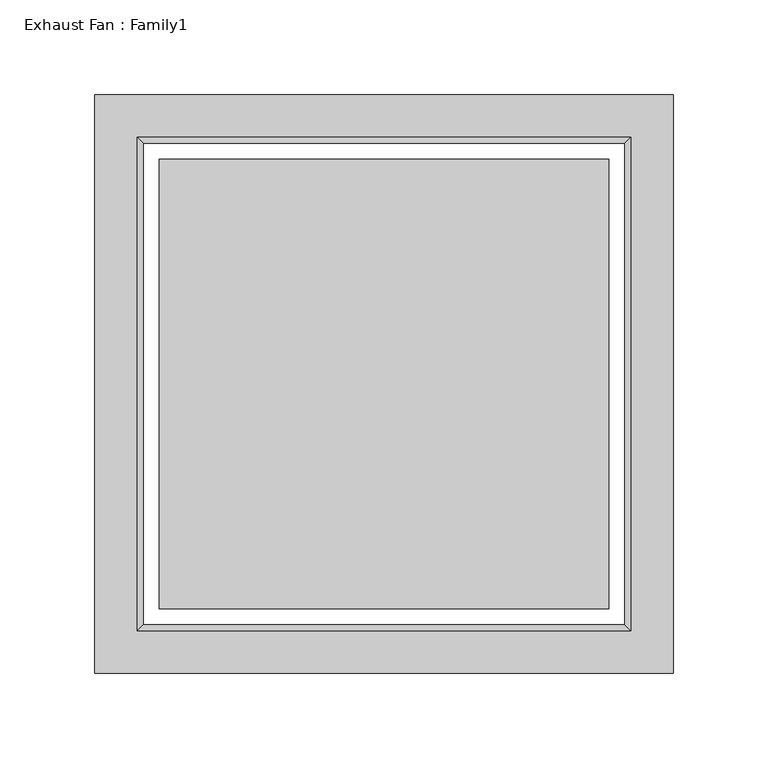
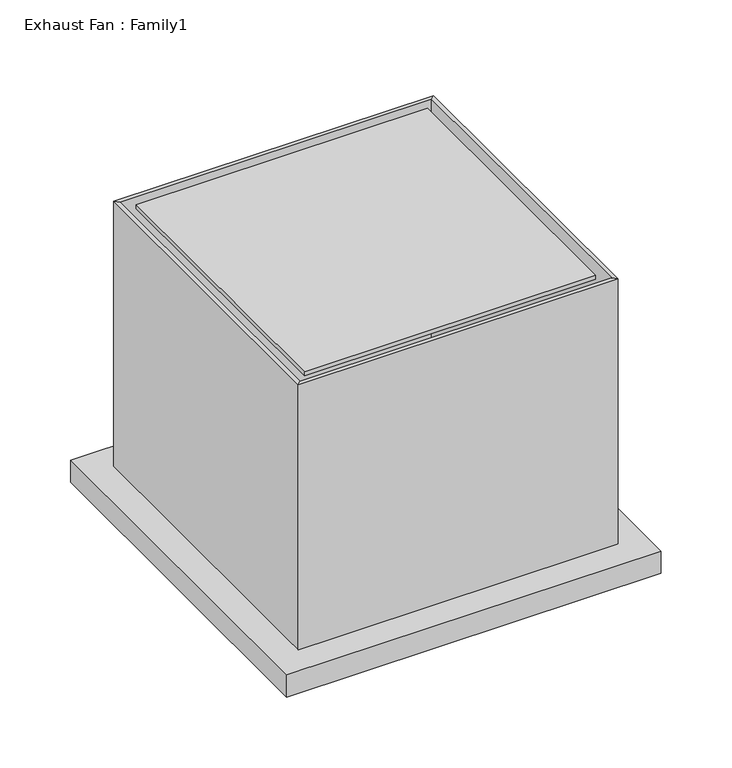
"""IFC4 building model written with IfcOpenShell, lengths in millimetres: proxy geometry, Exhaust Fan : Family1."""

from ifc_helpers import new_model, si_unit, frame, origin, place, context, project, spatial, polyline, outline, extrude, faceted_brep, source, transform, mapped, element, save


def exhaust_fan_family1_d98d6599(model_context):
    return source(origin(), model_context, "Body", "SolidModel", [
        faceted_brep([(5.1330387, 5.1330387, 2212.4571111), (5.1330387, 5.1330387, 2209.2649063), (5.1330387, -5.1330387, 2209.2649063), (5.1330387, -5.1330387, 2212.4571111), (76.2, 76.2, 2197.1052642), (76.2, -76.2, 2197.1052642), (76.2, 76.2, 2193.9130594), (76.2, -76.2, 2193.9130594), (-5.1330387, -5.1330387, 2209.2649063), (-5.1330387, -5.1330387, 2212.4571111), (-76.2, -76.2, 2197.1052642), (-76.2, -76.2, 2193.9130594), (-5.1330387, 5.1330387, 2209.2649063), (-5.1330387, 5.1330387, 2212.4571111), (-76.2, 76.2, 2197.1052642), (-76.2, 76.2, 2193.9130594)], [[[0, 1, 2, 3]], [[4, 0, 3, 5]], [[6, 4, 5, 7]], [[1, 6, 7, 2]], [[3, 2, 8, 9]], [[5, 3, 9, 10]], [[7, 5, 10, 11]], [[2, 7, 11, 8]], [[9, 8, 12, 13]], [[10, 9, 13, 14]], [[11, 10, 14, 15]], [[8, 11, 15, 12]], [[13, 12, 1, 0]], [[14, 13, 0, 4]], [[15, 14, 4, 6]], [[12, 15, 6, 1]]]),
        faceted_brep([(76.2, 76.2, 2213.0105201), (76.2, 76.2, 2209.8), (76.2, -76.2, 2209.8), (76.2, -76.2, 2213.0105201), (118.565175, 118.565175, 2197.1235794), (118.565175, -118.565175, 2197.1235794), (118.565175, 118.565175, 2193.9130594), (118.565175, -118.565175, 2193.9130594), (-76.2, -76.2, 2209.8), (-76.2, -76.2, 2213.0105201), (-118.565175, -118.565175, 2197.1235794), (-118.565175, -118.565175, 2193.9130594), (-76.2, 76.2, 2209.8), (-76.2, 76.2, 2213.0105201), (-118.565175, 118.565175, 2197.1235794), (-118.565175, 118.565175, 2193.9130594)], [[[0, 1, 2, 3]], [[4, 0, 3, 5]], [[6, 4, 5, 7]], [[1, 6, 7, 2]], [[3, 2, 8, 9]], [[5, 3, 9, 10]], [[7, 5, 10, 11]], [[2, 7, 11, 8]], [[9, 8, 12, 13]], [[10, 9, 13, 14]], [[11, 10, 14, 15]], [[8, 11, 15, 12]], [[13, 12, 1, 0]], [[14, 13, 0, 4]], [[15, 14, 4, 6]], [[12, 15, 6, 1]]]),
        extrude(outline(polyline([(152.4, 152.4), (152.4, -152.4), (-152.4, -152.4), (-152.4, 152.4), (152.4, 152.4)]), holes=[polyline([(127.0, 127.0), (-127.0, 127.0), (-127.0, -127.0), (127.0, -127.0), (127.0, 127.0)])]), frame((0.0, 0.0, 2190.75), z_axis=(0.0, 0.0, 1.0), x_axis=(1.0, 0.0, 0.0)), (0.0, 0.0, 1.0), 19.05),
        extrude(outline(polyline([(-118.565175, 118.565175), (118.565175, 118.565175), (118.565175, -118.565175), (-118.565175, -118.565175), (-118.565175, 118.565175)])), frame((0.0, 0.0, 2435.225), z_axis=(0.0, 0.0, 1.0), x_axis=(1.0, 0.0, 0.0)), (0.0, 0.0, 1.0), 3.175),
        faceted_brep([(127.0, 127.0, 2438.4), (127.0, 127.0, 2209.8), (127.0, -127.0, 2209.8), (127.0, -127.0, 2438.4), (130.175, 130.175, 2438.4), (130.175, -130.175, 2438.4), (130.175, 130.175, 2209.8), (130.175, -130.175, 2209.8), (-127.0, -127.0, 2209.8), (-127.0, -127.0, 2438.4), (-130.175, -130.175, 2438.4), (-130.175, -130.175, 2209.8), (-127.0, 127.0, 2209.8), (-127.0, 127.0, 2438.4), (-130.175, 130.175, 2438.4), (-130.175, 130.175, 2209.8)], [[[0, 1, 2, 3]], [[4, 0, 3, 5]], [[6, 4, 5, 7]], [[1, 6, 7, 2]], [[3, 2, 8, 9]], [[5, 3, 9, 10]], [[7, 5, 10, 11]], [[2, 7, 11, 8]], [[9, 8, 12, 13]], [[10, 9, 13, 14]], [[11, 10, 14, 15]], [[8, 11, 15, 12]], [[13, 12, 1, 0]], [[14, 13, 0, 4]], [[15, 14, 4, 6]], [[12, 15, 6, 1]]]),
    ])


if __name__ == "__main__":
    model = new_model("IFC4")
    model_context = context("Model", 3, world=origin())
    ifc_project = project(units=[si_unit("LENGTHUNIT", "METRE", prefix="MILLI")], contexts=[model_context])
    site = spatial("IfcSite", under=ifc_project)
    building = spatial("IfcBuilding", under=site)
    placement = place(None, origin())
    exhaust_fan_family1_shape = exhaust_fan_family1_d98d6599(model_context)
    element("IfcBuildingElementProxy", 1, Name="Exhaust Fan : Family1", ObjectType="Exhaust Fan : Family1", at=placement, inside=building, context=model_context, shape_type="MappedRepresentation", body=[
        mapped(exhaust_fan_family1_shape, transform((0.0, 0.0, 0.0), x_axis=(1.0, 0.0, 0.0), y_axis=(0.0, 1.0, 0.0), z_axis=(0.0, 0.0, 1.0))),
    ])
    save(model, "model.ifc")
